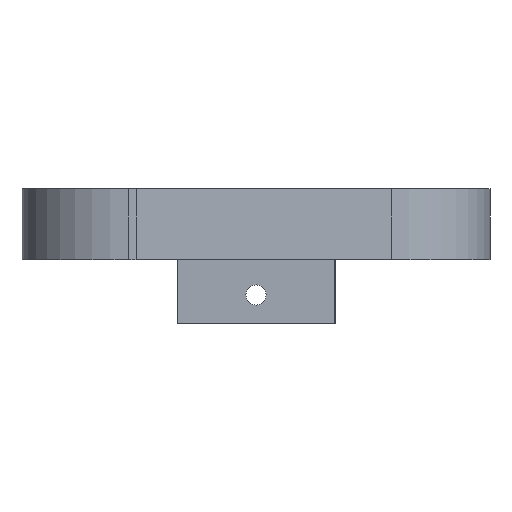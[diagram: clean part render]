
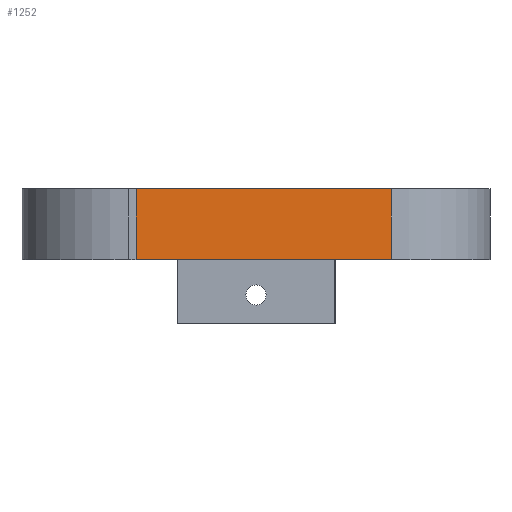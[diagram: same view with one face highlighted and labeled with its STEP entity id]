
A CAD part, left-side view. The second image highlights one B-rep face of the part: STEP entity #1252.
In plain terms, the highlighted planar face has unit normal (-0.998, -0.069, 0).
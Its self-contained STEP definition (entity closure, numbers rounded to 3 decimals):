
#6 = ORIENTED_EDGE ( 'NONE', *, *, #717, .F. ) ;
#66 = DIRECTION ( 'NONE',  ( 0., 0., -1. ) ) ;
#71 = VECTOR ( 'NONE', #1236, 1000. ) ;
#73 = LINE ( 'NONE', #182, #647 ) ;
#110 = CARTESIAN_POINT ( 'NONE',  ( -36.241, -18.82, 0. ) ) ;
#156 = VERTEX_POINT ( 'NONE', #805 ) ;
#158 = CARTESIAN_POINT ( 'NONE',  ( -38.729, 17.18, 10. ) ) ;
#181 = ORIENTED_EDGE ( 'NONE', *, *, #1024, .T. ) ;
#182 = CARTESIAN_POINT ( 'NONE',  ( -36.241, -18.82, 10. ) ) ;
#188 = VERTEX_POINT ( 'NONE', #531 ) ;
#204 = PLANE ( 'NONE',  #1259 ) ;
#222 = VERTEX_POINT ( 'NONE', #110 ) ;
#347 = LINE ( 'NONE', #793, #71 ) ;
#419 = EDGE_LOOP ( 'NONE', ( #1514, #611, #6, #181 ) ) ;
#516 = CARTESIAN_POINT ( 'NONE',  ( -38.729, 17.18, 0. ) ) ;
#531 = CARTESIAN_POINT ( 'NONE',  ( -38.729, 17.18, 10. ) ) ;
#611 = ORIENTED_EDGE ( 'NONE', *, *, #872, .F. ) ;
#614 = CARTESIAN_POINT ( 'NONE',  ( -38.729, 17.18, 10. ) ) ;
#647 = VECTOR ( 'NONE', #66, 1000. ) ;
#697 = DIRECTION ( 'NONE',  ( 0., 0., -1. ) ) ;
#717 = EDGE_CURVE ( 'NONE', #188, #156, #1635, .T. ) ;
#793 = CARTESIAN_POINT ( 'NONE',  ( -38.729, 17.18, 0. ) ) ;
#805 = CARTESIAN_POINT ( 'NONE',  ( -36.241, -18.82, 10. ) ) ;
#872 = EDGE_CURVE ( 'NONE', #156, #222, #73, .T. ) ;
#915 = DIRECTION ( 'NONE',  ( -0.069, 0.998, 0. ) ) ;
#963 = EDGE_CURVE ( 'NONE', #1597, #222, #347, .T. ) ;
#1024 = EDGE_CURVE ( 'NONE', #188, #1597, #1287, .T. ) ;
#1050 = VECTOR ( 'NONE', #697, 1000. ) ;
#1191 = DIRECTION ( 'NONE',  ( 0.998, 0.069, 0. ) ) ;
#1236 = DIRECTION ( 'NONE',  ( 0.069, -0.998, 0. ) ) ;
#1252 = ADVANCED_FACE ( 'NONE', ( #1589 ), #204, .F. ) ;
#1259 = AXIS2_PLACEMENT_3D ( 'NONE', #1605, #1191, #915 ) ;
#1287 = LINE ( 'NONE', #158, #1050 ) ;
#1294 = DIRECTION ( 'NONE',  ( 0.069, -0.998, 0. ) ) ;
#1433 = VECTOR ( 'NONE', #1294, 1000. ) ;
#1514 = ORIENTED_EDGE ( 'NONE', *, *, #963, .T. ) ;
#1589 = FACE_OUTER_BOUND ( 'NONE', #419, .T. ) ;
#1597 = VERTEX_POINT ( 'NONE', #516 ) ;
#1605 = CARTESIAN_POINT ( 'NONE',  ( -38.729, 17.18, 10. ) ) ;
#1635 = LINE ( 'NONE', #614, #1433 ) ;
